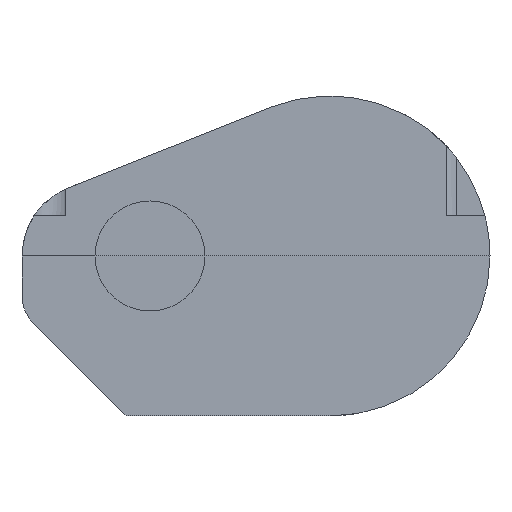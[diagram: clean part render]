
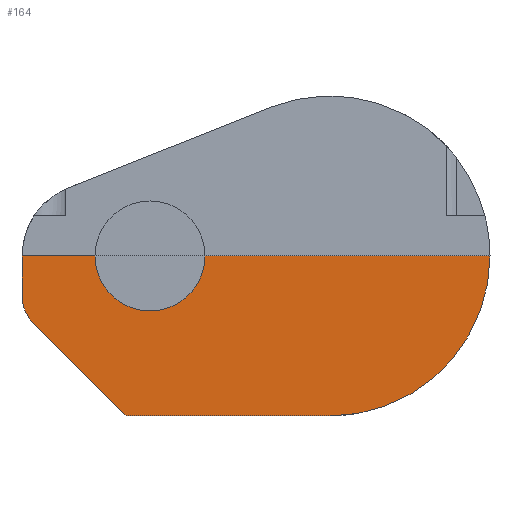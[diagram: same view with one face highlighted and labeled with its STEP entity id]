
A CAD part, front view. The second image highlights one B-rep face of the part: STEP entity #164.
In plain terms, the highlighted planar face has unit normal (0, -1, 0).
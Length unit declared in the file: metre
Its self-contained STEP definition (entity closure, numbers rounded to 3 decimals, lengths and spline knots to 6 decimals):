
#164 = ADVANCED_FACE( '', ( #388 ), #389, .T. );
#388 = FACE_OUTER_BOUND( '', #730, .T. );
#389 = PLANE( '', #731 );
#730 = EDGE_LOOP( '', ( #1174, #1175, #1176, #1177, #1178, #1179, #1180, #1181, #1182 ) );
#731 = AXIS2_PLACEMENT_3D( '', #1183, #1184, #1185 );
#1174 = ORIENTED_EDGE( '', *, *, #1820, .F. );
#1175 = ORIENTED_EDGE( '', *, *, #1869, .T. );
#1176 = ORIENTED_EDGE( '', *, *, #1870, .T. );
#1177 = ORIENTED_EDGE( '', *, *, #1871, .F. );
#1178 = ORIENTED_EDGE( '', *, *, #1872, .T. );
#1179 = ORIENTED_EDGE( '', *, *, #1873, .F. );
#1180 = ORIENTED_EDGE( '', *, *, #1827, .F. );
#1181 = ORIENTED_EDGE( '', *, *, #1874, .F. );
#1182 = ORIENTED_EDGE( '', *, *, #1875, .T. );
#1183 = CARTESIAN_POINT( '', ( -0.00925, -0.006, 0. ) );
#1184 = DIRECTION( '', ( 0., -1., 0. ) );
#1185 = DIRECTION( '', ( 1., 0., 0. ) );
#1820 = EDGE_CURVE( '', #2195, #2197, #2198, .T. );
#1827 = EDGE_CURVE( '', #2208, #2209, #2210, .T. );
#1869 = EDGE_CURVE( '', #2195, #2273, #2274, .T. );
#1870 = EDGE_CURVE( '', #2273, #2275, #2276, .F. );
#1871 = EDGE_CURVE( '', #2277, #2275, #2278, .T. );
#1872 = EDGE_CURVE( '', #2277, #2279, #2280, .T. );
#1873 = EDGE_CURVE( '', #2209, #2279, #2281, .T. );
#1874 = EDGE_CURVE( '', #2282, #2208, #2283, .T. );
#1875 = EDGE_CURVE( '', #2282, #2197, #2284, .T. );
#2195 = VERTEX_POINT( '', #2793 );
#2197 = VERTEX_POINT( '', #2796 );
#2198 = LINE( '', #2797, #2798 );
#2208 = VERTEX_POINT( '', #2811 );
#2209 = VERTEX_POINT( '', #2812 );
#2210 = CIRCLE( '', #2813, 0.006875 );
#2273 = VERTEX_POINT( '', #2948 );
#2274 = CIRCLE( '', #2949, 0.005 );
#2275 = VERTEX_POINT( '', #2950 );
#2276 = LINE( '', #2951, #2952 );
#2277 = VERTEX_POINT( '', #2953 );
#2278 = LINE( '', #2954, #2955 );
#2279 = VERTEX_POINT( '', #2956 );
#2280 = CIRCLE( '', #2957, 0.02 );
#2281 = LINE( '', #2958, #2959 );
#2282 = VERTEX_POINT( '', #2960 );
#2283 = LINE( '', #2961, #2962 );
#2284 = B_SPLINE_CURVE_WITH_KNOTS( '', 2, ( #2963, #2964, #2965 ), .UNSPECIFIED., .F., .F., ( 3, 3 ), ( 0.956185, 1. ), .UNSPECIFIED. );
#2793 = CARTESIAN_POINT( '', ( -0.0385, -0.006, -0.004929 ) );
#2796 = CARTESIAN_POINT( '', ( -0.0385, -0.006, -0.000586 ) );
#2797 = CARTESIAN_POINT( '', ( -0.0385, -0.006, -0.006902 ) );
#2798 = VECTOR( '', #3423, 1. );
#2811 = CARTESIAN_POINT( '', ( -0.029375, -0.006, 0. ) );
#2812 = CARTESIAN_POINT( '', ( -0.015625, -0.006, 0. ) );
#2813 = AXIS2_PLACEMENT_3D( '', #3428, #3429, #3430 );
#2948 = CARTESIAN_POINT( '', ( -0.037036, -0.006, -0.008464 ) );
#2949 = AXIS2_PLACEMENT_3D( '', #3488, #3489, #3490 );
#2950 = CARTESIAN_POINT( '', ( -0.0255, -0.006, -0.02 ) );
#2951 = CARTESIAN_POINT( '', ( -0.027375, -0.006, -0.018125 ) );
#2952 = VECTOR( '', #3491, 1. );
#2953 = CARTESIAN_POINT( '', ( 0., -0.006, -0.02 ) );
#2954 = CARTESIAN_POINT( '', ( -0.01925, -0.006, -0.02 ) );
#2955 = VECTOR( '', #3492, 1. );
#2956 = CARTESIAN_POINT( '', ( 0.02, -0.006, 0. ) );
#2957 = AXIS2_PLACEMENT_3D( '', #3493, #3494, #3495 );
#2958 = CARTESIAN_POINT( '', ( -0.00925, -0.006, 0. ) );
#2959 = VECTOR( '', #3496, 1. );
#2960 = CARTESIAN_POINT( '', ( -0.038488, -0.006, 0. ) );
#2961 = CARTESIAN_POINT( '', ( -0.00925, -0.006, 0. ) );
#2962 = VECTOR( '', #3497, 1. );
#2963 = CARTESIAN_POINT( '', ( -0.038488, -0.006, 0. ) );
#2964 = CARTESIAN_POINT( '', ( -0.0385, -0.006, -0.000289 ) );
#2965 = CARTESIAN_POINT( '', ( -0.0385, -0.006, -0.000586 ) );
#3423 = DIRECTION( '', ( 0., 0., 1. ) );
#3428 = CARTESIAN_POINT( '', ( -0.0225, -0.006, 0. ) );
#3429 = DIRECTION( '', ( 0., -1., 0. ) );
#3430 = DIRECTION( '', ( 0., 0., -1. ) );
#3488 = CARTESIAN_POINT( '', ( -0.0335, -0.006, -0.004929 ) );
#3489 = DIRECTION( '', ( 0., -1., 0. ) );
#3490 = DIRECTION( '', ( 0., 0., -1. ) );
#3491 = DIRECTION( '', ( -0.707, 0., 0.707 ) );
#3492 = DIRECTION( '', ( -1., 0., 0. ) );
#3493 = CARTESIAN_POINT( '', ( 0., -0.006, 0. ) );
#3494 = DIRECTION( '', ( 0., -1., 0. ) );
#3495 = DIRECTION( '', ( 0., 0., -1. ) );
#3496 = DIRECTION( '', ( 1., 0., 0. ) );
#3497 = DIRECTION( '', ( 1., 0., 0. ) );
